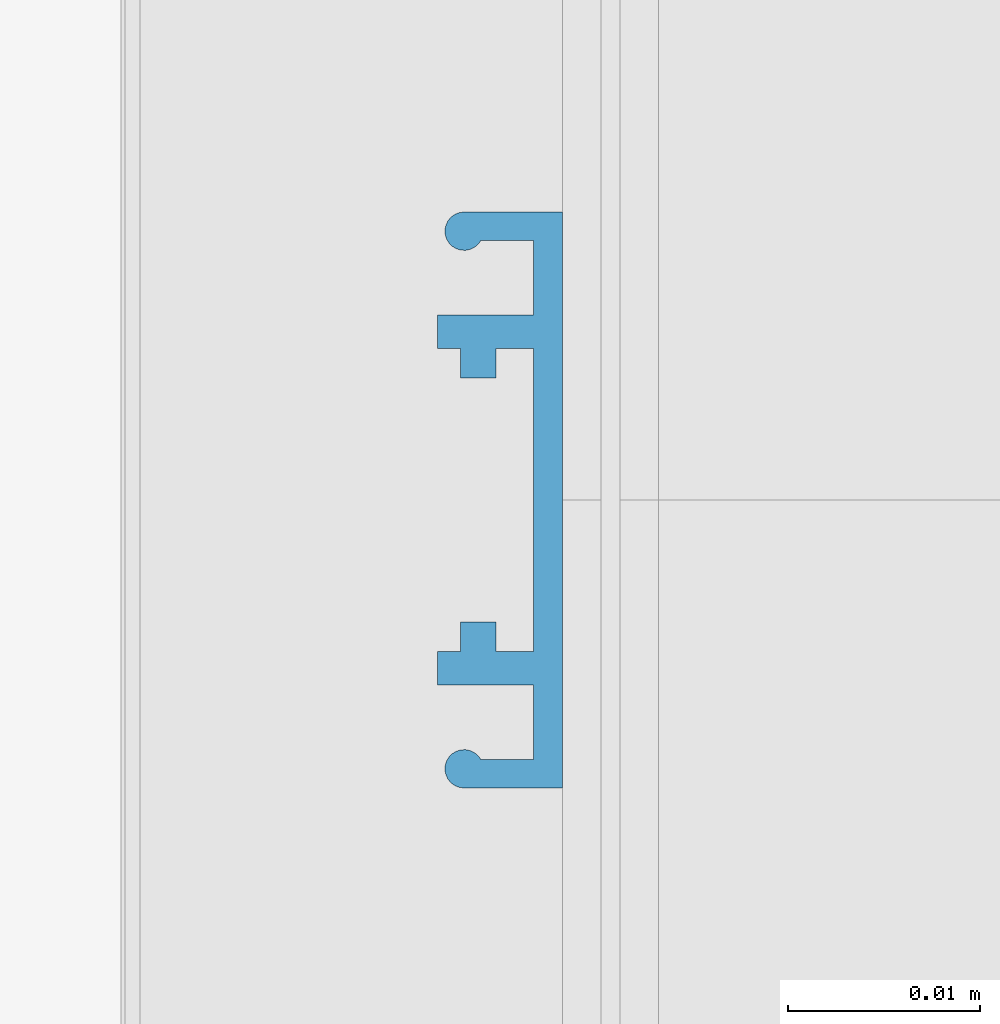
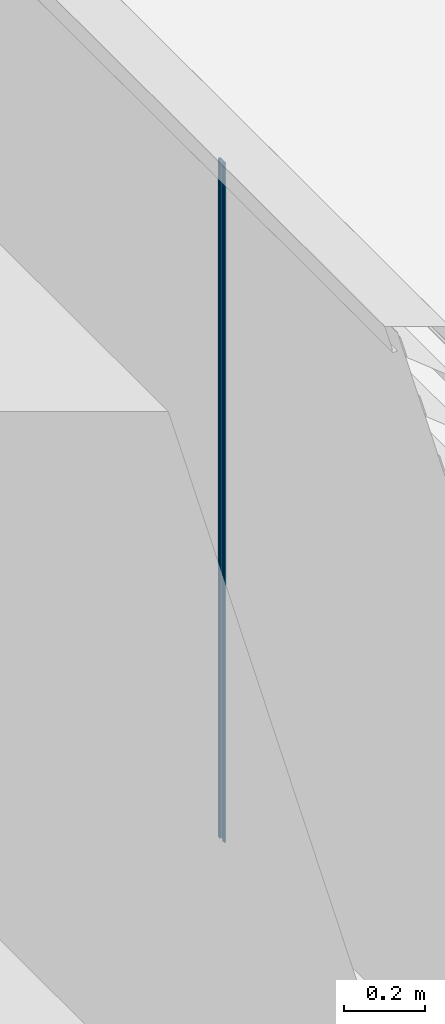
# One storey, part 7 of 32: 1 member, 1 element without a shape of its own.
"""IFC2X3 building model written with IfcOpenShell, lengths in millimetres."""

from ifc_helpers import new_model, entity, si_unit, converted_unit, derived_unit, direction, frame, frame_2d, origin, place, context, subcontext, project, spatial, polyline, circle_curve, parameter, trimmed, segment, composite_curve, outline, extrude, source, transform, mapped, material, type_object, type_shapes, element, aggregate, save


model = new_model("IFC2X3")

# Units and contexts
model_context = context("Model", 3, precision=0.01, world=origin(), true_north=direction((6.123031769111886e-17, 1.0)))
body_context = subcontext(model_context, "Body", "Model", "MODEL_VIEW")
ifc_project = project(units=[si_unit("LENGTHUNIT", "METRE", prefix="MILLI"), si_unit("AREAUNIT", "SQUARE_METRE"), si_unit("VOLUMEUNIT", "CUBIC_METRE"), converted_unit("PLANEANGLEUNIT", "DEGREE", entity("IfcRatioMeasure", 0.017453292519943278), si_unit("PLANEANGLEUNIT", "RADIAN"), dimensions=[0, 0, 0, 0, 0, 0, 0]), si_unit("MASSUNIT", "GRAM", prefix="KILO"), derived_unit("MASSDENSITYUNIT", [(si_unit("MASSUNIT", "GRAM", prefix="KILO"), 1), (si_unit("LENGTHUNIT", "METRE"), -3)]), derived_unit("IONCONCENTRATIONUNIT", [(si_unit("MASSUNIT", "GRAM", prefix="KILO"), 1), (si_unit("LENGTHUNIT", "METRE"), -3)]), derived_unit("MOMENTOFINERTIAUNIT", [(si_unit("LENGTHUNIT", "METRE"), 4)]), si_unit("TIMEUNIT", "SECOND"), si_unit("FREQUENCYUNIT", "HERTZ"), si_unit("THERMODYNAMICTEMPERATUREUNIT", "DEGREE_CELSIUS"), derived_unit("THERMALTRANSMITTANCEUNIT", [(si_unit("MASSUNIT", "GRAM", prefix="KILO"), 1), (si_unit("THERMODYNAMICTEMPERATUREUNIT", "KELVIN"), -1), (si_unit("TIMEUNIT", "SECOND"), -3)]), derived_unit("THERMALCONDUCTANCEUNIT", [(si_unit("MASSUNIT", "GRAM", prefix="KILO"), 1), (si_unit("THERMODYNAMICTEMPERATUREUNIT", "KELVIN"), -1), (si_unit("TIMEUNIT", "SECOND"), -3), (si_unit("LENGTHUNIT", "METRE"), 1)]), derived_unit("VOLUMETRICFLOWRATEUNIT", [(si_unit("LENGTHUNIT", "METRE"), 3), (si_unit("TIMEUNIT", "SECOND"), -1)]), derived_unit("MASSFLOWRATEUNIT", [(si_unit("MASSUNIT", "GRAM", prefix="KILO"), 1), (si_unit("TIMEUNIT", "SECOND"), -1)]), derived_unit("ROTATIONALFREQUENCYUNIT", [(si_unit("TIMEUNIT", "SECOND"), -1)]), si_unit("ELECTRICCURRENTUNIT", "AMPERE"), si_unit("ELECTRICVOLTAGEUNIT", "VOLT"), si_unit("POWERUNIT", "WATT"), si_unit("FORCEUNIT", "NEWTON", prefix="KILO"), si_unit("ILLUMINANCEUNIT", "LUX"), si_unit("LUMINOUSFLUXUNIT", "LUMEN"), si_unit("LUMINOUSINTENSITYUNIT", "CANDELA"), derived_unit("USERDEFINED", [(si_unit("MASSUNIT", "GRAM", prefix="KILO"), -1), (si_unit("LENGTHUNIT", "METRE"), -2), (si_unit("TIMEUNIT", "SECOND"), 3), (si_unit("LUMINOUSFLUXUNIT", "LUMEN"), 1)]), derived_unit("USERDEFINED", [(si_unit("MASSUNIT", "GRAM", prefix="KILO"), 1), (si_unit("TIMEUNIT", "SECOND"), -3), (si_unit("LENGTHUNIT", "METRE"), 3), (si_unit("ELECTRICCURRENTUNIT", "AMPERE"), -2)]), derived_unit("SOUNDPOWERUNIT", [(si_unit("MASSUNIT", "GRAM", prefix="KILO"), 1), (si_unit("TIMEUNIT", "SECOND"), -3), (si_unit("LENGTHUNIT", "METRE"), 2)]), derived_unit("SOUNDPRESSUREUNIT", [(si_unit("MASSUNIT", "GRAM", prefix="KILO"), 1), (si_unit("LENGTHUNIT", "METRE"), -1), (si_unit("TIMEUNIT", "SECOND"), -2)]), derived_unit("LINEARVELOCITYUNIT", [(si_unit("LENGTHUNIT", "METRE"), 1), (si_unit("TIMEUNIT", "SECOND"), -1)]), si_unit("PRESSUREUNIT", "PASCAL"), derived_unit("USERDEFINED", [(si_unit("MASSUNIT", "GRAM", prefix="KILO"), 1), (si_unit("LENGTHUNIT", "METRE"), -2), (si_unit("TIMEUNIT", "SECOND"), -2)]), derived_unit("LINEARFORCEUNIT", [(si_unit("MASSUNIT", "GRAM", prefix="KILO"), 1), (si_unit("TIMEUNIT", "SECOND"), -2)]), derived_unit("PLANARFORCEUNIT", [(si_unit("MASSUNIT", "GRAM", prefix="KILO"), 1), (si_unit("LENGTHUNIT", "METRE"), -1), (si_unit("TIMEUNIT", "SECOND"), -2)]), derived_unit("SPECIFICHEATCAPACITYUNIT", [(si_unit("THERMODYNAMICTEMPERATUREUNIT", "KELVIN"), -1), (si_unit("LENGTHUNIT", "METRE"), 2), (si_unit("TIMEUNIT", "SECOND"), -2)]), derived_unit("HEATINGVALUEUNIT", [(si_unit("LENGTHUNIT", "METRE"), 2), (si_unit("TIMEUNIT", "SECOND"), -2)]), derived_unit("VAPORPERMEABILITYUNIT", [(si_unit("LENGTHUNIT", "METRE"), -1), (si_unit("TIMEUNIT", "SECOND"), 1)]), derived_unit("DYNAMICVISCOSITYUNIT", [(si_unit("MASSUNIT", "GRAM", prefix="KILO"), 1), (si_unit("TIMEUNIT", "SECOND"), -1), (si_unit("LENGTHUNIT", "METRE"), -1)]), derived_unit("THERMALEXPANSIONCOEFFICIENTUNIT", [(si_unit("THERMODYNAMICTEMPERATUREUNIT", "KELVIN"), -1)]), derived_unit("MODULUSOFELASTICITYUNIT", [(si_unit("MASSUNIT", "GRAM", prefix="KILO"), 1), (si_unit("LENGTHUNIT", "METRE"), -1), (si_unit("TIMEUNIT", "SECOND"), -2)]), derived_unit("ISOTHERMALMOISTURECAPACITYUNIT", [(si_unit("LENGTHUNIT", "METRE"), 3), (si_unit("MASSUNIT", "GRAM", prefix="KILO"), -1)]), derived_unit("MOISTUREDIFFUSIVITYUNIT", [(si_unit("TIMEUNIT", "SECOND"), -1), (si_unit("LENGTHUNIT", "METRE"), 2)])], contexts=[model_context])

# Site, building, storey
site_placement = place(None, frame((0.0, 300.0, 0.0)))
site = spatial("IfcSite", under=ifc_project, at=site_placement, Name="<Kadastrale nummers>", CompositionType="ELEMENT")
building_placement = place(site_placement, origin())
building = spatial("IfcBuilding", under=site, at=building_placement, CompositionType="ELEMENT")
storey_placement = place(building_placement, frame((0.0, 0.0, 7150.000035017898)))
storey = spatial("IfcBuildingStorey", under=building, at=storey_placement, Name="02 tweede verdieping", CompositionType="ELEMENT", Elevation=7150.000035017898)

# Curtain wall, member
curtain_wall_type = type_object("IfcCurtainWallType", Name="Curtain Wall:NLRS_21_CWA_lamellenwand Linius - L.120 met LD.0065_Storax", PredefinedType="NOTDEFINED")
curtain_wall_placement = place(storey_placement, frame((0.0, 0.0, -7150.000035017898)))
curtain_wall = element("IfcCurtainWall", 1, at=curtain_wall_placement, inside=storey, type_object=curtain_wall_type, Name="Curtain Wall:NLRS_21_CWA_lamellenwand Linius - L.120 met LD.0065_Storax", ObjectType="Curtain Wall:NLRS_21_CWA_lamellenwand Linius - L.120 met LD.0065_Storax")
ifc_material = material(Name="STAAL_RAL 7006")
member_type = type_object("IfcMemberType", Name="Rectangular Mullion:NLRS_21_CWM_drager LD.0065_Storax", PredefinedType="MULLION", material=ifc_material)
shared_shape = source(origin(), body_context, "Body", "SweptSolid", [
    extrude(outline(composite_curve([segment(polyline([(-1.4234637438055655, -14.998975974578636), (3.696834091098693, -14.998975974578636)]), True, "CONTINUOUS"), segment(polyline([(3.696834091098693, -14.998975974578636), (3.696834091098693, 15.001024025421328)]), True, "CONTINUOUS"), segment(polyline([(3.696834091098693, 15.001024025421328), (-1.4234637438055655, 15.001024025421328)]), True, "CONTINUOUS"), segment(trimmed(circle_curve(frame_2d((-1.4234637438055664, 14.001024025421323), x_axis=(0.0, 1.0)), 1.0000000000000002), [parameter(0.0)], [parameter(241.34010185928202)], True, "PARAMETER"), True, "CONTINUOUS"), segment(polyline([(-0.5459816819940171, 13.521414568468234), (2.196834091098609, 13.521414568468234)]), True, "CONTINUOUS"), segment(polyline([(2.196834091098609, 13.521414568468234), (2.196834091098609, 9.648596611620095)]), True, "CONTINUOUS"), segment(polyline([(2.196834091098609, 9.648596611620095), (-2.803165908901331, 9.648596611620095)]), True, "CONTINUOUS"), segment(polyline([(-2.803165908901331, 9.648596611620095), (-2.803165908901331, 7.8879641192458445)]), True, "CONTINUOUS"), segment(polyline([(-2.803165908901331, 7.8879641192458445), (-1.6031201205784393, 7.8879641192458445)]), True, "CONTINUOUS"), segment(polyline([(-1.6031201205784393, 7.8879641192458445), (-1.6031201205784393, 6.348596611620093)]), True, "CONTINUOUS"), segment(polyline([(-1.6031201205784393, 6.348596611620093), (0.2473405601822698, 6.348596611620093)]), True, "CONTINUOUS"), segment(polyline([(0.2473405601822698, 6.348596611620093), (0.2473405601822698, 7.88796411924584)]), True, "CONTINUOUS"), segment(polyline([(0.2473405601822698, 7.88796411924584), (2.1968340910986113, 7.88796411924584)]), True, "CONTINUOUS"), segment(polyline([(2.1968340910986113, 7.88796411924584), (2.1968340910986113, -7.885916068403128)]), True, "CONTINUOUS"), segment(polyline([(2.1968340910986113, -7.885916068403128), (0.2473405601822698, -7.885916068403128)]), True, "CONTINUOUS"), segment(polyline([(0.2473405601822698, -7.885916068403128), (0.2473405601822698, -6.358836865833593)]), True, "CONTINUOUS"), segment(polyline([(0.2473405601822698, -6.358836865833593), (-1.6031201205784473, -6.358836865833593)]), True, "CONTINUOUS"), segment(polyline([(-1.6031201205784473, -6.358836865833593), (-1.6031201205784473, -7.885916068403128)]), True, "CONTINUOUS"), segment(polyline([(-1.6031201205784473, -7.885916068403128), (-2.803165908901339, -7.885916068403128)]), True, "CONTINUOUS"), segment(polyline([(-2.803165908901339, -7.885916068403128), (-2.803165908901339, -9.646548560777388)]), True, "CONTINUOUS"), segment(polyline([(-2.803165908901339, -9.646548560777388), (2.1968340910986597, -9.646548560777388)]), True, "CONTINUOUS"), segment(polyline([(2.1968340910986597, -9.646548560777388), (2.1968340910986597, -13.519366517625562)]), True, "CONTINUOUS"), segment(polyline([(2.1968340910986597, -13.519366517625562), (-0.5459816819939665, -13.519366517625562)]), True, "CONTINUOUS"), segment(trimmed(circle_curve(frame_2d((-1.4234637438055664, -13.998975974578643), x_axis=(0.8774820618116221, 0.4796094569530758)), 1.0000000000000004), [parameter(0.0)], [parameter(241.34010185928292)], True, "PARAMETER"), True, "CONTINUOUS")], self_intersect=False)), frame((-0.0010240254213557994, 4.696834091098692, -2049.999964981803), z_axis=(0.0, 0.0, 1.0), x_axis=(0.0, -1.0, 0.0)), (0.0, 0.0, 1.0), 2049.999964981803),
])
type_shapes(member_type, [shared_shape])
member_placement = place(curtain_wall_placement, frame((41676.0, 33602.50000015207, 7650.000035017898), z_axis=(0.0, 0.0, -1.0), x_axis=(0.0, -1.0, 0.0)))
member = element("IfcMember", 2, at=member_placement, type_object=member_type, material=ifc_material, Name="Rectangular Mullion:NLRS_21_CWM_drager LD.0065_Storax", ObjectType="Rectangular Mullion:NLRS_21_CWM_drager LD.0065_Storax", context=body_context, shape_type="MappedRepresentation", body=[
    mapped(shared_shape, transform((0.0, 0.0, 0.0), scale=1.0)),
])
aggregate(curtain_wall, [member])

save(model, "model.ifc")
